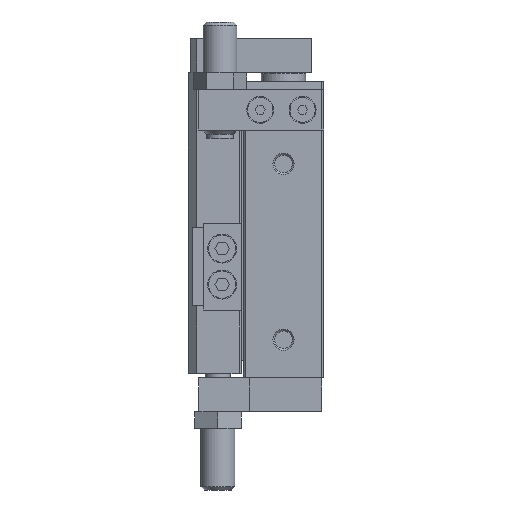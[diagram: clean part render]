
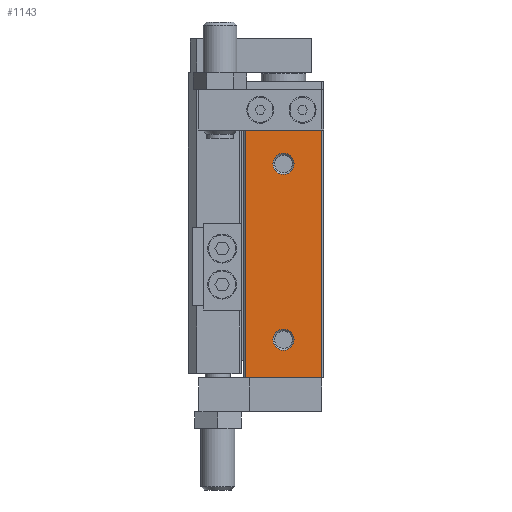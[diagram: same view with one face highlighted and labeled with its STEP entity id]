
A CAD part, left-side view. The second image highlights one B-rep face of the part: STEP entity #1143.
In plain terms, the highlighted planar face has unit normal (-1, 0, 0).
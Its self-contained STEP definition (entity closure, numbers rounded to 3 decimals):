
#1143 = ADVANCED_FACE( '', ( #2659, #2660, #2661 ), #2662, .T. );
#2659 = FACE_BOUND( '', #4595, .T. );
#2660 = FACE_BOUND( '', #4596, .T. );
#2661 = FACE_OUTER_BOUND( '', #4597, .T. );
#2662 = PLANE( '', #4598 );
#4595 = EDGE_LOOP( '', ( #7709 ) );
#4596 = EDGE_LOOP( '', ( #7710 ) );
#4597 = EDGE_LOOP( '', ( #7711, #7712, #7713, #7714 ) );
#4598 = AXIS2_PLACEMENT_3D( '', #7715, #7716, #7717 );
#7709 = ORIENTED_EDGE( '', *, *, #11553, .T. );
#7710 = ORIENTED_EDGE( '', *, *, #11554, .T. );
#7711 = ORIENTED_EDGE( '', *, *, #11555, .T. );
#7712 = ORIENTED_EDGE( '', *, *, #11556, .F. );
#7713 = ORIENTED_EDGE( '', *, *, #11338, .F. );
#7714 = ORIENTED_EDGE( '', *, *, #10965, .T. );
#7715 = CARTESIAN_POINT( '', ( -25., 18.5, -70. ) );
#7716 = DIRECTION( '', ( -1., 0., 0. ) );
#7717 = DIRECTION( '', ( 0., 0., 1. ) );
#10965 = EDGE_CURVE( '', #13111, #13160, #13162, .T. );
#11338 = EDGE_CURVE( '', #13111, #13749, #13750, .T. );
#11553 = EDGE_CURVE( '', #14074, #14074, #14075, .T. );
#11554 = EDGE_CURVE( '', #14076, #14076, #14077, .T. );
#11555 = EDGE_CURVE( '', #13160, #14078, #14079, .T. );
#11556 = EDGE_CURVE( '', #13749, #14078, #14080, .T. );
#13111 = VERTEX_POINT( '', #16097 );
#13160 = VERTEX_POINT( '', #16170 );
#13162 = LINE( '', #16173, #16174 );
#13749 = VERTEX_POINT( '', #16993 );
#13750 = LINE( '', #16994, #16995 );
#14074 = VERTEX_POINT( '', #17457 );
#14075 = CIRCLE( '', #17458, 2.5 );
#14076 = VERTEX_POINT( '', #17459 );
#14077 = CIRCLE( '', #17460, 2.5 );
#14078 = VERTEX_POINT( '', #17461 );
#14079 = LINE( '', #17462, #17463 );
#14080 = LINE( '', #17464, #17465 );
#16097 = CARTESIAN_POINT( '', ( -25., 18.5, -70. ) );
#16170 = CARTESIAN_POINT( '', ( -25., 0.5, -70. ) );
#16173 = CARTESIAN_POINT( '', ( -25., 18.5, -70. ) );
#16174 = VECTOR( '', #19294, 1000. );
#16993 = CARTESIAN_POINT( '', ( -25., 18.5, -11.5 ) );
#16994 = CARTESIAN_POINT( '', ( -25., 18.5, -70. ) );
#16995 = VECTOR( '', #19680, 1000. );
#17457 = CARTESIAN_POINT( '', ( -25., 9.5, -63.5 ) );
#17458 = AXIS2_PLACEMENT_3D( '', #19879, #19880, #19881 );
#17459 = CARTESIAN_POINT( '', ( -25., 9.5, -22. ) );
#17460 = AXIS2_PLACEMENT_3D( '', #19882, #19883, #19884 );
#17461 = CARTESIAN_POINT( '', ( -25., 0.5, -11.5 ) );
#17462 = CARTESIAN_POINT( '', ( -25., 0.5, -70. ) );
#17463 = VECTOR( '', #19885, 1000. );
#17464 = CARTESIAN_POINT( '', ( -25., 19., -11.5 ) );
#17465 = VECTOR( '', #19886, 1000. );
#19294 = DIRECTION( '', ( 0., -1., 0. ) );
#19680 = DIRECTION( '', ( 0., 0., 1. ) );
#19879 = CARTESIAN_POINT( '', ( -25., 9.5, -61. ) );
#19880 = DIRECTION( '', ( 1., 0., 0. ) );
#19881 = DIRECTION( '', ( 0., 0., -1. ) );
#19882 = CARTESIAN_POINT( '', ( -25., 9.5, -19.5 ) );
#19883 = DIRECTION( '', ( 1., 0., 0. ) );
#19884 = DIRECTION( '', ( 0., 0., -1. ) );
#19885 = DIRECTION( '', ( 0., 0., 1. ) );
#19886 = DIRECTION( '', ( 0., -1., 0. ) );
